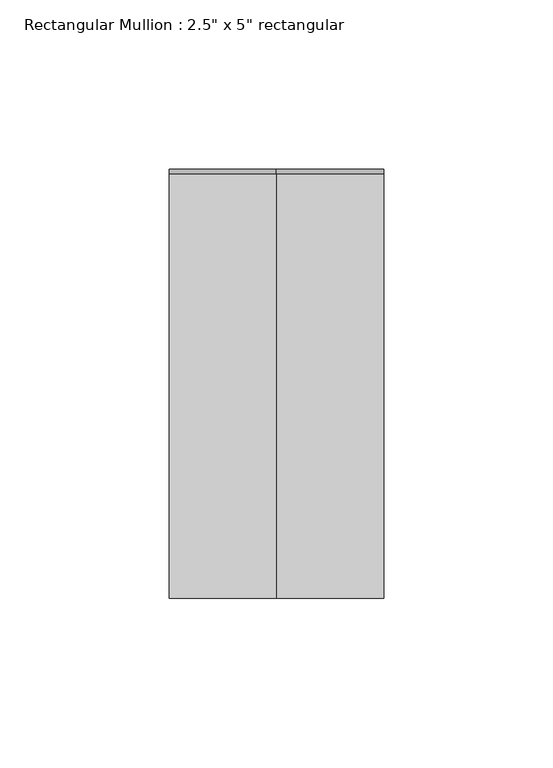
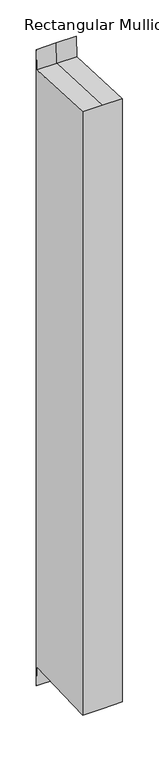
"""IFC4 building model written with IfcOpenShell, lengths in millimetres: member geometry."""

from ifc_helpers import new_model, si_unit, origin, place, context, project, spatial, faceted_brep, source, transform, mapped, element, save


def member_5e6938f9(model_context):
    return source(origin(), model_context, "Body", "Brep", [
        faceted_brep([(-31.75, 63.5, 30.3543811), (0.0, 63.5, 30.3543811), (31.75, 63.5, 30.3543811), (31.75, 63.5, -1038.1722316), (0.0, 63.5, -1038.1722316), (-31.75, 63.5, -1038.1722316), (-31.75, -63.5, 2.7618987), (-31.75, 62.043738, -2.7592318), (-31.75, 62.043738, -1005.0586187), (-31.75, -63.5, -1010.5797492), (31.75, -63.5, 2.7618987), (0.0, -63.5, 2.7618987), (0.0, -63.5, -1010.5797492), (31.75, -63.5, -1010.5797492), (31.75, 62.043738, -2.7592318), (31.75, 62.043738, -1005.0586187), (0.0, 62.043738, -2.7592318), (0.0, 62.043738, -1005.0586187)], [[[0, 1, 2, 3, 4, 5]], [[6, 7, 0, 5, 8, 9]], [[10, 11, 6, 9, 12, 13]], [[2, 14, 10, 13, 15, 3]], [[2, 1, 16, 14]], [[1, 0, 7, 16]], [[7, 6, 11, 16]], [[11, 10, 14, 16]], [[3, 15, 17, 4]], [[15, 13, 12, 17]], [[12, 9, 8, 17]], [[8, 5, 4, 17]]]),
    ])


if __name__ == "__main__":
    model = new_model("IFC4")
    model_context = context("Model", 3, world=origin())
    ifc_project = project(units=[si_unit("LENGTHUNIT", "METRE", prefix="MILLI")], contexts=[model_context])
    site = spatial("IfcSite", under=ifc_project)
    building = spatial("IfcBuilding", under=site)
    placement = place(None, origin())
    member_shape = member_5e6938f9(model_context)
    element("IfcMember", 1, ObjectType="Rectangular Mullion : 2.5\" x 5\" rectangular", at=placement, inside=building, context=model_context, shape_type="MappedRepresentation", body=[
        mapped(member_shape, transform((0.0, 0.0, 0.0), x_axis=(1.0, 0.0, 0.0), y_axis=(0.0, 1.0, 0.0), z_axis=(0.0, 0.0, 1.0))),
    ])
    save(model, "model.ifc")
